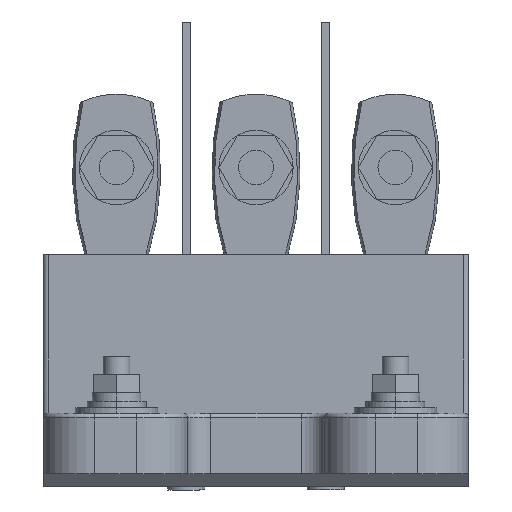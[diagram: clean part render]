
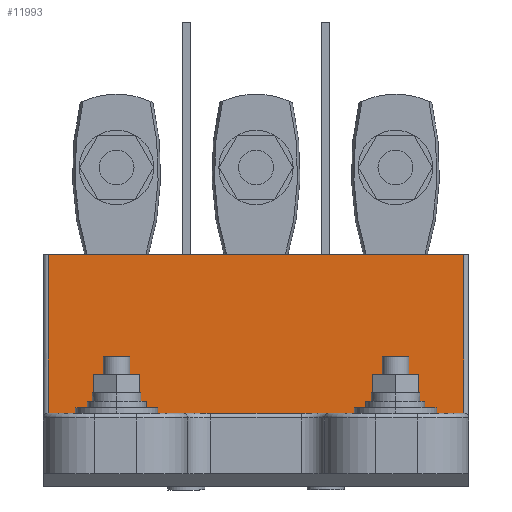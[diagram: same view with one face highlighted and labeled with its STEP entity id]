
A CAD part, front view. The second image highlights one B-rep face of the part: STEP entity #11993.
In plain terms, the highlighted planar face has unit normal (0, -1, 0) as drawn and (1, 0, 0) by its records, which use the part's own axes.
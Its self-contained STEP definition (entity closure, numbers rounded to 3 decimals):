
#98 = CARTESIAN_POINT ( 'NONE',  ( 38., 50., -24. ) ) ;
#457 = CARTESIAN_POINT ( 'NONE',  ( 38., 15.8, -24. ) ) ;
#2020 = EDGE_CURVE ( 'NONE', #3899, #12638, #7277, .T. ) ;
#2894 = EDGE_CURVE ( 'NONE', #6924, #3899, #8847, .T. ) ;
#3169 = VECTOR ( 'NONE', #4191, 1000. ) ;
#3237 = CARTESIAN_POINT ( 'NONE',  ( 38., 15.8, -44.75 ) ) ;
#3350 = CARTESIAN_POINT ( 'NONE',  ( 38., 50., 44.75 ) ) ;
#3354 = CARTESIAN_POINT ( 'NONE',  ( 38., 15.8, 44.75 ) ) ;
#3481 = FACE_OUTER_BOUND ( 'NONE', #11232, .T. ) ;
#3899 = VERTEX_POINT ( 'NONE', #3350 ) ;
#4074 = ORIENTED_EDGE ( 'NONE', *, *, #6736, .T. ) ;
#4191 = DIRECTION ( 'NONE',  ( 0., 1., 0. ) ) ;
#4353 = VECTOR ( 'NONE', #8341, 1000. ) ;
#4810 = ORIENTED_EDGE ( 'NONE', *, *, #10010, .F. ) ;
#6736 = EDGE_CURVE ( 'NONE', #11845, #6924, #13170, .T. ) ;
#6874 = CARTESIAN_POINT ( 'NONE',  ( 38., 15.8, -44.75 ) ) ;
#6924 = VERTEX_POINT ( 'NONE', #12261 ) ;
#7277 = LINE ( 'NONE', #3354, #4353 ) ;
#7327 = DIRECTION ( 'NONE',  ( 1., 0., 0. ) ) ;
#8035 = CARTESIAN_POINT ( 'NONE',  ( 38., 15.8, 44.75 ) ) ;
#8341 = DIRECTION ( 'NONE',  ( 0., -1., 0. ) ) ;
#8847 = LINE ( 'NONE', #98, #9578 ) ;
#9578 = VECTOR ( 'NONE', #11540, 1000. ) ;
#9839 = ORIENTED_EDGE ( 'NONE', *, *, #2894, .T. ) ;
#10010 = EDGE_CURVE ( 'NONE', #11845, #12638, #10435, .T. ) ;
#10435 = LINE ( 'NONE', #457, #16028 ) ;
#11154 = PLANE ( 'NONE',  #13239 ) ;
#11232 = EDGE_LOOP ( 'NONE', ( #9839, #12932, #4810, #4074 ) ) ;
#11540 = DIRECTION ( 'NONE',  ( 0., 0., 1. ) ) ;
#11845 = VERTEX_POINT ( 'NONE', #3237 ) ;
#11993 = ADVANCED_FACE ( 'NONE', ( #3481 ), #11154, .T. ) ;
#12261 = CARTESIAN_POINT ( 'NONE',  ( 38., 50., -44.75 ) ) ;
#12638 = VERTEX_POINT ( 'NONE', #8035 ) ;
#12932 = ORIENTED_EDGE ( 'NONE', *, *, #2020, .T. ) ;
#13170 = LINE ( 'NONE', #6874, #3169 ) ;
#13203 = DIRECTION ( 'NONE',  ( 0., 0., 1. ) ) ;
#13239 = AXIS2_PLACEMENT_3D ( 'NONE', #13297, #7327, #13456 ) ;
#13297 = CARTESIAN_POINT ( 'NONE',  ( 38., 15.8, -24. ) ) ;
#13456 = DIRECTION ( 'NONE',  ( 0., -1., 0. ) ) ;
#16028 = VECTOR ( 'NONE', #13203, 1000. ) ;
